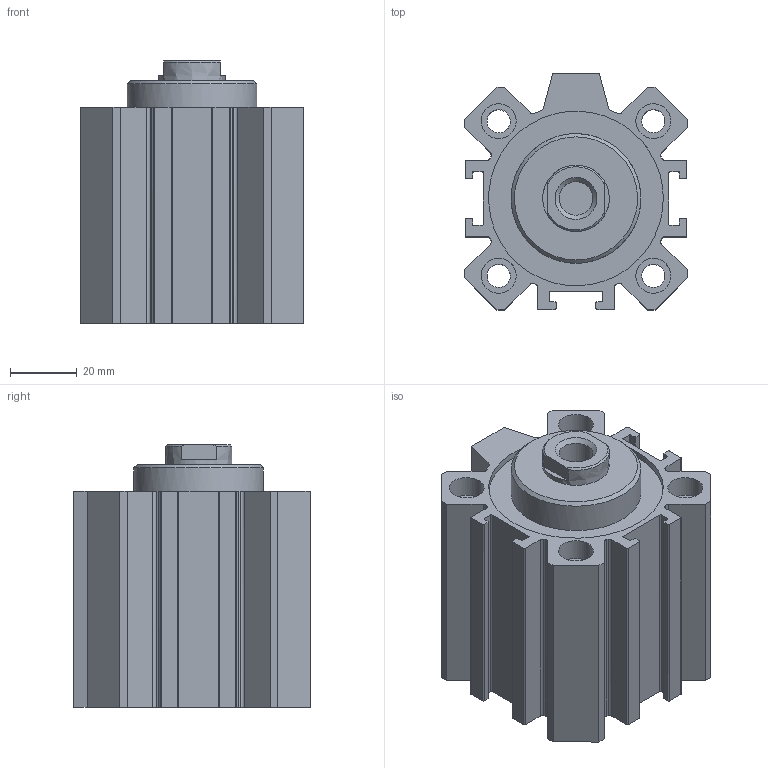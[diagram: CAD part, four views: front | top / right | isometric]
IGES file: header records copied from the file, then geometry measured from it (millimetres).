
Global section: file name: 1511_50_0025; native system: Autodesk Inventor 2014; preprocessor: unknown; author: A. Manieri; date: 20160824.134012; units: millimetre
Bounding box: 67 x 71 x 79 mm (x, y, z)
Volume: 191436.8 mm3; surface area: 61149.7 mm2
Topology: 2 solids, 2 shells, 165 faces, 443 edges, 300 vertices
Faces by surface type: bspline 165
